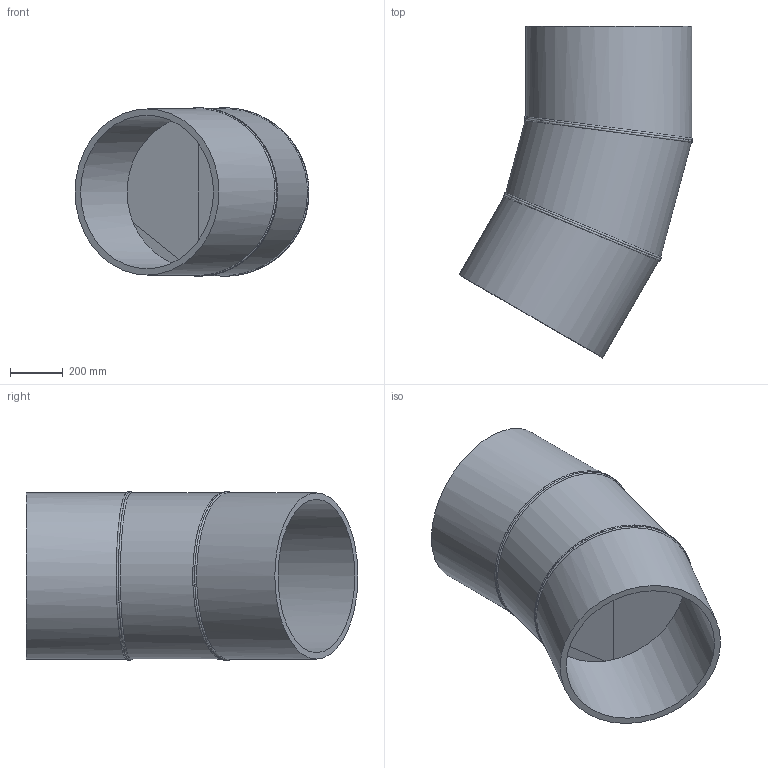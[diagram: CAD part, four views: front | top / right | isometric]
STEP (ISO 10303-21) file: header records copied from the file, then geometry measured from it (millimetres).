
FILE_DESCRIPTION(/* description */ ('Unknown'),/* implementation_level */ '2;1');
FILE_NAME(/* name */ 'Curva 30° a settore DE630 SDR26',/* time_stamp */ '2022-07-26T09:19:57+02:00',/* author */ ('Unknown'),/* organization */ ('Unknown'),/* preprocessor_version */ 'ST-DEVELOPER v18.102',/* originating_system */ 'Solid Edge',/* authorisation */ 'Unknown');
FILE_SCHEMA (('AUTOMOTIVE_DESIGN {1 0 10303 214 3 1 1}'));
Length unit declared in the file: millimetre
Products named in the file (3): Curva 30° a settore DE630 SDR26; Tubo x Gomito 30° DE630 SDR26 - 1; Tubo x Gomito 30° DE630 SDR26 - 2
Assembly tree (3 placements, depth 2):
  Curva 30° a settore DE630 SDR26
    Tubo x Gomito 30° DE630 SDR26 - 1  x2
    Tubo x Gomito 30° DE630 SDR26 - 2
Bounding box: 886.64 x 1257.89 x 637.99 mm (x, y, z)
Volume: 53685055.4 mm3; surface area: 4752440.9 mm2
Topology: 3 solids, 3 shells, 24 faces, 51 edges, 33 vertices
Faces by surface type: cylinder 14, plane 6, bspline 4
Full cylindrical faces by diameter (mm): 581.8 x3, 630 x3
Entity records: 3414 total; most frequent: CARTESIAN_POINT 3019, DIRECTION 70, ORIENTED_EDGE 52, AXIS2_PLACEMENT_3D 35, EDGE_LOOP 28, FACE_BOUND 28, EDGE_CURVE 26, VERTEX_POINT 20
